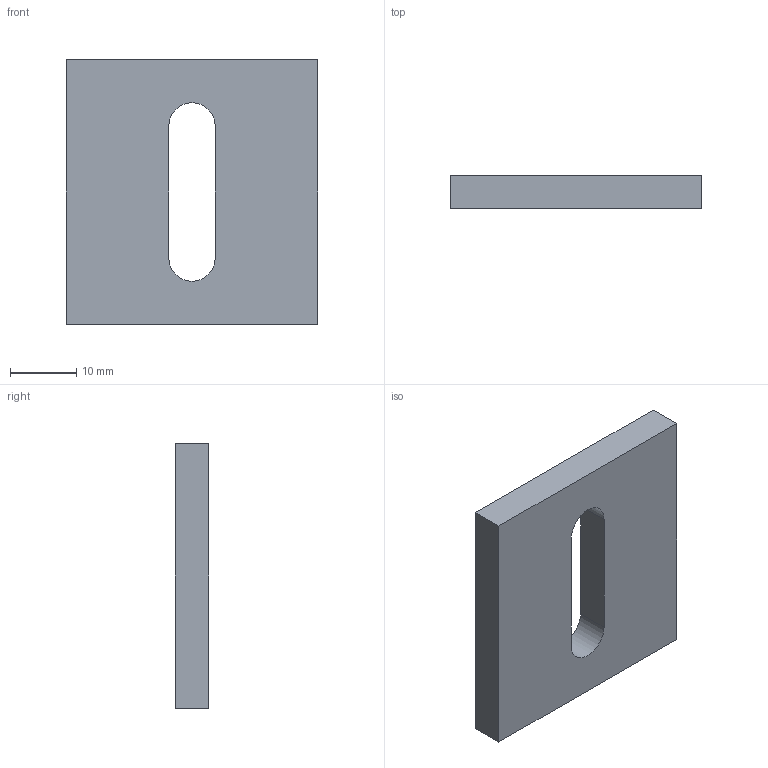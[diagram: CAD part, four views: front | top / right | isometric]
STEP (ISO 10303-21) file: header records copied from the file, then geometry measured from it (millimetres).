
FILE_DESCRIPTION(/* description */ ('Unknown'),/* implementation_level */ '2;1');
FILE_NAME(/* name */ '10_PMT_mount_part2',/* time_stamp */ '2020-07-12T16:38:08+02:00',/* author */ ('Unknown'),/* organization */ ('Unknown'),/* preprocessor_version */ 'ST-DEVELOPER v16.7',/* originating_system */ 'Solid Edge',/* authorisation */ 'Unknown');
FILE_SCHEMA (('AUTOMOTIVE_DESIGN {1 0 10303 214 3 1 1}'));
Length unit declared in the file: millimetre
Products named in the file (1): 10_PMT_mount_part2
Bounding box: 38 x 5 x 40 mm (x, y, z)
Volume: 6625 mm3; surface area: 3909.1 mm2
Topology: 1 solids, 1 shells, 18 faces, 40 edges, 26 vertices
Faces by surface type: plane 10, cylinder 6, cone 2
Full cylindrical faces by diameter (mm): 2 x2, 2.5 x2
Entity records: 615 total; most frequent: DIRECTION 82, CARTESIAN_POINT 77, ORIENTED_EDGE 64, EDGE_CURVE 32, AXIS2_PLACEMENT_3D 31, FACE_BOUND 30, EDGE_LOOP 28, VERTEX_POINT 26
